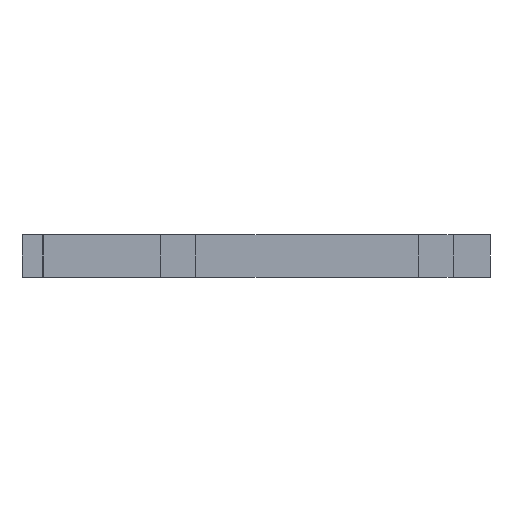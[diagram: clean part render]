
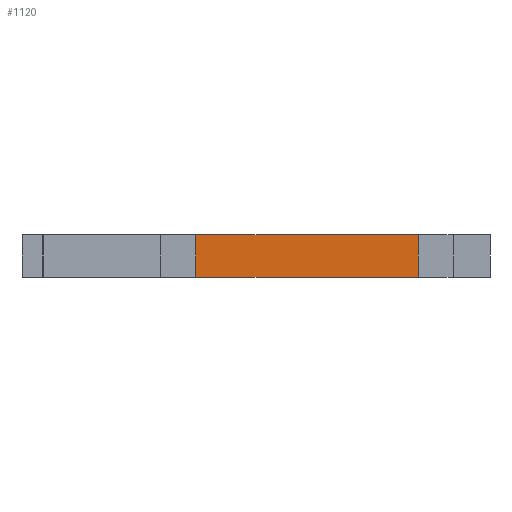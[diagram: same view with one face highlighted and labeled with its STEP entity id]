
A CAD part, left-side view. The second image highlights one B-rep face of the part: STEP entity #1120.
In plain terms, the highlighted planar face has unit normal (-1, 0, 0).
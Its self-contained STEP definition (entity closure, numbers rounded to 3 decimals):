
#73 = LINE ( 'NONE', #1421, #775 ) ;
#79 = VECTOR ( 'NONE', #377, 1000. ) ;
#105 = CARTESIAN_POINT ( 'NONE',  ( -196., -92.3, 0. ) ) ;
#108 = DIRECTION ( 'NONE',  ( 0., 0., -1. ) ) ;
#135 = EDGE_CURVE ( 'NONE', #908, #829, #638, .T. ) ;
#149 = EDGE_CURVE ( 'NONE', #1767, #652, #847, .T. ) ;
#230 = PLANE ( 'NONE',  #495 ) ;
#250 = DIRECTION ( 'NONE',  ( 0., -1., 0. ) ) ;
#365 = LINE ( 'NONE', #820, #815 ) ;
#377 = DIRECTION ( 'NONE',  ( 0., 0., -1. ) ) ;
#495 = AXIS2_PLACEMENT_3D ( 'NONE', #922, #530, #108 ) ;
#530 = DIRECTION ( 'NONE',  ( 1., 0., 0. ) ) ;
#585 = DIRECTION ( 'NONE',  ( 0., -1., 0. ) ) ;
#638 = LINE ( 'NONE', #1612, #1511 ) ;
#652 = VERTEX_POINT ( 'NONE', #105 ) ;
#699 = ORIENTED_EDGE ( 'NONE', *, *, #1368, .T. ) ;
#767 = ORIENTED_EDGE ( 'NONE', *, *, #135, .T. ) ;
#775 = VECTOR ( 'NONE', #585, 1000. ) ;
#815 = VECTOR ( 'NONE', #250, 1000. ) ;
#820 = CARTESIAN_POINT ( 'NONE',  ( -196., -92.3, 10. ) ) ;
#829 = VERTEX_POINT ( 'NONE', #958 ) ;
#847 = LINE ( 'NONE', #1473, #79 ) ;
#893 = EDGE_LOOP ( 'NONE', ( #699, #1160, #1252, #767 ) ) ;
#908 = VERTEX_POINT ( 'NONE', #980 ) ;
#922 = CARTESIAN_POINT ( 'NONE',  ( -196., -92.3, 10. ) ) ;
#958 = CARTESIAN_POINT ( 'NONE',  ( -196., -40.5, 0. ) ) ;
#980 = CARTESIAN_POINT ( 'NONE',  ( -196., -40.5, 10. ) ) ;
#1120 = ADVANCED_FACE ( 'NONE', ( #1169 ), #230, .F. ) ;
#1160 = ORIENTED_EDGE ( 'NONE', *, *, #149, .F. ) ;
#1169 = FACE_OUTER_BOUND ( 'NONE', #893, .T. ) ;
#1252 = ORIENTED_EDGE ( 'NONE', *, *, #1765, .F. ) ;
#1341 = DIRECTION ( 'NONE',  ( 0., 0., -1. ) ) ;
#1368 = EDGE_CURVE ( 'NONE', #829, #652, #73, .T. ) ;
#1421 = CARTESIAN_POINT ( 'NONE',  ( -196., -92.3, 0. ) ) ;
#1473 = CARTESIAN_POINT ( 'NONE',  ( -196., -92.3, 10. ) ) ;
#1511 = VECTOR ( 'NONE', #1341, 1000. ) ;
#1535 = CARTESIAN_POINT ( 'NONE',  ( -196., -92.3, 10. ) ) ;
#1612 = CARTESIAN_POINT ( 'NONE',  ( -196., -40.5, 10. ) ) ;
#1765 = EDGE_CURVE ( 'NONE', #908, #1767, #365, .T. ) ;
#1767 = VERTEX_POINT ( 'NONE', #1535 ) ;
